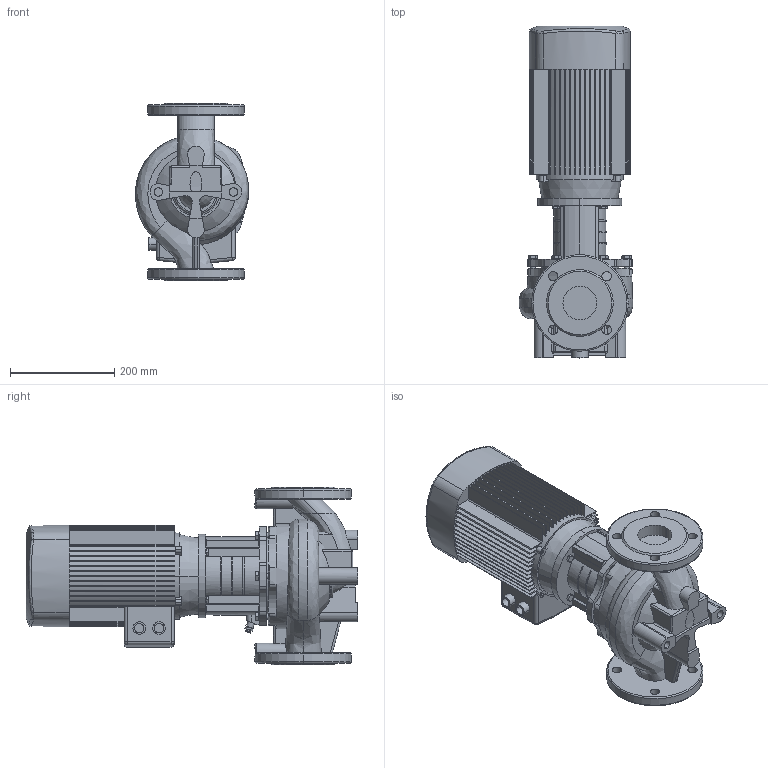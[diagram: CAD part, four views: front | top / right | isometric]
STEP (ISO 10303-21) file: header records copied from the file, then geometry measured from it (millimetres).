
FILE_DESCRIPTION(/* description */ (''),/* implementation_level */ '2;1');
FILE_NAME(/* name */ 'TD65-20-2安装尺寸图.stp',/* time_stamp */ '2026-09-07T15:41:16+08:00',/* author */ (''),/* organization */ (''),/* preprocessor_version */ 'ST-DEVELOPER v16.7',/* originating_system */ 'SIEMENS PLM Software NX 1847',/* authorisation */ '');
FILE_SCHEMA (('AP203_CONFIGURATION_CONTROLLED_3D_DESIGN_OF_MECHANICAL_PARTS_AND_ASSEMBLIES_MIM_LF { 1 0 10303 403 2 1 2}'));
Length unit declared in the file: millimetre
Products named in the file (1): Admi55F8EAC4z27o
Bounding box: 217.02 x 636.5 x 340 mm (x, y, z)
Volume: 16778695 mm3; surface area: 1053833.7 mm2
Topology: 1 solids, 7 shells, 908 faces, 2397 edges, 1540 vertices
Faces by surface type: plane 447, cylinder 268, cone 79, torus 59, bspline 49, sphere 6
Full cylindrical faces by diameter (mm): 7.76 x4, 8 x1, 9.732 x6, 10 x1, 11.63 x4, 12.9 x1, 14.63 x6, 150 x1
Entity records: 35572 total; most frequent: CARTESIAN_POINT 13457, ORIENTED_EDGE 4660, DIRECTION 4544, EDGE_CURVE 2330, AXIS2_PLACEMENT_3D 1759, VERTEX_POINT 1517, EDGE_LOOP 1035, LINE 1026
